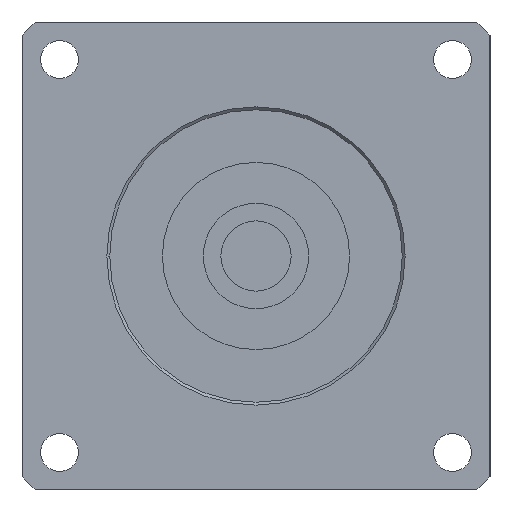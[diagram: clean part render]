
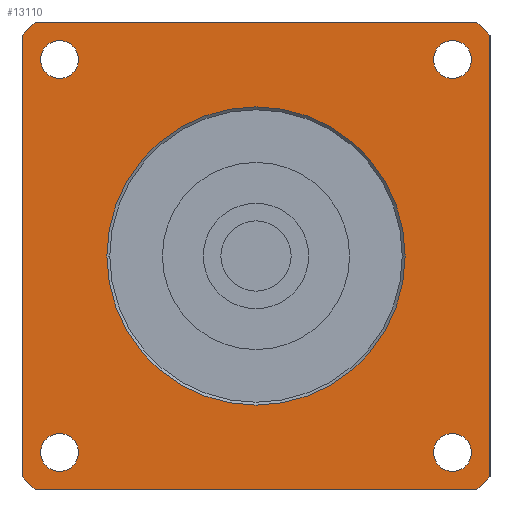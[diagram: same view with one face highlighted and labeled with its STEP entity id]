
A CAD part, left-side view. The second image highlights one B-rep face of the part: STEP entity #13110.
In plain terms, the highlighted planar face has unit normal (-1, 0, 0) as drawn and (0, 0, -1) by its records, which use the part's own axes.
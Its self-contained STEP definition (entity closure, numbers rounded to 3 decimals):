
#8680=CARTESIAN_POINT('',(-36.838,33.588,-37.));
#8690=VERTEX_POINT('',#8680);
#8870=CARTESIAN_POINT('',(-30.338,33.588,-37.));
#8880=VERTEX_POINT('',#8870);
#8910=CARTESIAN_POINT('',(-33.588,33.588,-37.));
#8920=DIRECTION('',(0.,0.,-1.));
#8930=DIRECTION('',(1.,0.,0.));
#8940=AXIS2_PLACEMENT_3D('',#8910,#8920,#8930);
#8950=CIRCLE('',#8940,3.25);
#8960=EDGE_CURVE('',#8690,#8880,#8950,.T.);
#9100=CARTESIAN_POINT('',(30.338,33.588,-37.));
#9110=VERTEX_POINT('',#9100);
#9290=CARTESIAN_POINT('',(36.838,33.588,-37.));
#9300=VERTEX_POINT('',#9290);
#9330=CARTESIAN_POINT('',(33.588,33.588,-37.));
#9340=DIRECTION('',(0.,0.,-1.));
#9350=DIRECTION('',(1.,0.,0.));
#9360=AXIS2_PLACEMENT_3D('',#9330,#9340,#9350);
#9370=CIRCLE('',#9360,3.25);
#9380=EDGE_CURVE('',#9110,#9300,#9370,.T.);
#11680=CARTESIAN_POINT('',(25.5,0.,-37.));
#11690=VERTEX_POINT('',#11680);
#11720=CARTESIAN_POINT('',(0.,0.,
-37.));
#11730=DIRECTION('',(0.,0.,1.));
#11740=DIRECTION('',(-1.,0.,0.));
#11750=AXIS2_PLACEMENT_3D('',#11720,#11730,#11740);
#11760=CIRCLE('',#11750,25.5);
#11770=CARTESIAN_POINT('',(-25.5,0.,-37.));
#11780=VERTEX_POINT('',#11770);
#11790=EDGE_CURVE('',#11690,#11780,#11760,.T.);
#11910=CARTESIAN_POINT('',(40.,40.,-37.));
#11920=DIRECTION('',(0.,0.,1.));
#11930=DIRECTION('',(-1.,0.,0.));
#11940=AXIS2_PLACEMENT_3D('',#11910,#11920,#11930);
#11950=PLANE('',#11940);
#11960=EDGE_CURVE('',#11780,#11690,#11760,.T.);
#11970=ORIENTED_EDGE('',*,*,#11960,.T.);
#11980=ORIENTED_EDGE('',*,*,#11790,.T.);
#11990=EDGE_LOOP('',(#11980,#11970));
#12000=FACE_BOUND('',#11990,.T.);
#12010=CARTESIAN_POINT('',(-33.588,-33.588,-37.));
#12020=DIRECTION('',(0.,0.,-1.));
#12030=DIRECTION('',(1.,0.,0.));
#12040=AXIS2_PLACEMENT_3D('',#12010,#12020,#12030);
#12050=CIRCLE('',#12040,3.25);
#12060=CARTESIAN_POINT('',(-30.338,-33.588,-37.));
#12070=VERTEX_POINT('',#12060);
#12080=CARTESIAN_POINT('',(-36.838,-33.588,-37.));
#12090=VERTEX_POINT('',#12080);
#12100=EDGE_CURVE('',#12070,#12090,#12050,.T.);
#12110=ORIENTED_EDGE('',*,*,#12100,.F.);
#12120=EDGE_CURVE('',#12090,#12070,#12050,.T.);
#12130=ORIENTED_EDGE('',*,*,#12120,.F.);
#12140=EDGE_LOOP('',(#12130,#12110));
#12150=FACE_BOUND('',#12140,.T.);
#12160=CARTESIAN_POINT('',(33.588,-33.588,-37.));
#12170=DIRECTION('',(0.,0.,-1.));
#12180=DIRECTION('',(1.,0.,0.));
#12190=AXIS2_PLACEMENT_3D('',#12160,#12170,#12180);
#12200=CIRCLE('',#12190,3.25);
#12210=CARTESIAN_POINT('',(36.838,-33.588,-37.));
#12220=VERTEX_POINT('',#12210);
#12230=CARTESIAN_POINT('',(30.338,-33.588,-37.));
#12240=VERTEX_POINT('',#12230);
#12250=EDGE_CURVE('',#12220,#12240,#12200,.T.);
#12260=ORIENTED_EDGE('',*,*,#12250,.F.);
#12270=EDGE_CURVE('',#12240,#12220,#12200,.T.);
#12280=ORIENTED_EDGE('',*,*,#12270,.F.);
#12290=EDGE_LOOP('',(#12280,#12260));
#12300=FACE_BOUND('',#12290,.T.);
#12310=EDGE_CURVE('',#9300,#9110,#9370,.T.);
#12320=ORIENTED_EDGE('',*,*,#12310,.F.);
#12330=ORIENTED_EDGE('',*,*,#9380,.F.);
#12340=EDGE_LOOP('',(#12330,#12320));
#12350=FACE_BOUND('',#12340,.T.);
#12360=EDGE_CURVE('',#8880,#8690,#8950,.T.);
#12370=ORIENTED_EDGE('',*,*,#12360,.F.);
#12380=ORIENTED_EDGE('',*,*,#8960,.F.);
#12390=EDGE_LOOP('',(#12380,#12370));
#12400=FACE_BOUND('',#12390,.T.);
#12410=CARTESIAN_POINT('',(0.,0.,
-37.));
#12420=DIRECTION('',(0.,0.,1.));
#12430=DIRECTION('',(1.,0.,0.));
#12440=AXIS2_PLACEMENT_3D('',#12410,#12420,#12430);
#12450=CIRCLE('',#12440,55.);
#12460=CARTESIAN_POINT('',(-40.,-37.749,-37.));
#12470=VERTEX_POINT('',#12460);
#12480=CARTESIAN_POINT('',(-37.749,-40.,-37.));
#12490=VERTEX_POINT('',#12480);
#12500=EDGE_CURVE('',#12470,#12490,#12450,.T.);
#12510=ORIENTED_EDGE('',*,*,#12500,.F.);
#12520=CARTESIAN_POINT('',(-40.,-40.,-37.));
#12530=DIRECTION('',(1.,0.,0.));
#12540=VECTOR('',#12530,1000.);
#12550=LINE('',#12520,#12540);
#12560=CARTESIAN_POINT('',(37.749,-40.,-37.));
#12570=VERTEX_POINT('',#12560);
#12580=EDGE_CURVE('',#12490,#12570,#12550,.T.);
#12590=ORIENTED_EDGE('',*,*,#12580,.F.);
#12600=CARTESIAN_POINT('',(0.,0.,
-37.));
#12610=DIRECTION('',(0.,0.,1.));
#12620=DIRECTION('',(1.,0.,0.));
#12630=AXIS2_PLACEMENT_3D('',#12600,#12610,#12620);
#12640=CIRCLE('',#12630,55.);
#12650=CARTESIAN_POINT('',(40.,-37.749,-37.));
#12660=VERTEX_POINT('',#12650);
#12670=EDGE_CURVE('',#12570,#12660,#12640,.T.);
#12680=ORIENTED_EDGE('',*,*,#12670,.F.);
#12690=CARTESIAN_POINT('',(40.,-40.,-37.));
#12700=DIRECTION('',(0.,1.,0.));
#12710=VECTOR('',#12700,1000.);
#12720=LINE('',#12690,#12710);
#12730=CARTESIAN_POINT('',(40.,37.749,-37.));
#12740=VERTEX_POINT('',#12730);
#12750=EDGE_CURVE('',#12660,#12740,#12720,.T.);
#12760=ORIENTED_EDGE('',*,*,#12750,.F.);
#12770=CARTESIAN_POINT('',(0.,0.,
-37.));
#12780=DIRECTION('',(0.,0.,1.));
#12790=DIRECTION('',(1.,0.,0.));
#12800=AXIS2_PLACEMENT_3D('',#12770,#12780,#12790);
#12810=CIRCLE('',#12800,55.);
#12820=CARTESIAN_POINT('',(37.749,40.,-37.));
#12830=VERTEX_POINT('',#12820);
#12840=EDGE_CURVE('',#12740,#12830,#12810,.T.);
#12850=ORIENTED_EDGE('',*,*,#12840,.F.);
#12860=CARTESIAN_POINT('',(40.,40.,-37.));
#12870=DIRECTION('',(-1.,0.,0.));
#12880=VECTOR('',#12870,1000.);
#12890=LINE('',#12860,#12880);
#12900=CARTESIAN_POINT('',(-37.749,40.,-37.));
#12910=VERTEX_POINT('',#12900);
#12920=EDGE_CURVE('',#12830,#12910,#12890,.T.);
#12930=ORIENTED_EDGE('',*,*,#12920,.F.);
#12940=CARTESIAN_POINT('',(0.,0.,
-37.));
#12950=DIRECTION('',(0.,0.,1.));
#12960=DIRECTION('',(1.,0.,0.));
#12970=AXIS2_PLACEMENT_3D('',#12940,#12950,#12960);
#12980=CIRCLE('',#12970,55.);
#12990=CARTESIAN_POINT('',(-40.,37.749,-37.));
#13000=VERTEX_POINT('',#12990);
#13010=EDGE_CURVE('',#12910,#13000,#12980,.T.);
#13020=ORIENTED_EDGE('',*,*,#13010,.F.);
#13030=CARTESIAN_POINT('',(-40.,40.,-37.));
#13040=DIRECTION('',(0.,-1.,0.));
#13050=VECTOR('',#13040,1000.);
#13060=LINE('',#13030,#13050);
#13070=EDGE_CURVE('',#13000,#12470,#13060,.T.);
#13080=ORIENTED_EDGE('',*,*,#13070,.F.);
#13090=EDGE_LOOP('',(#13080,#13020,#12930,#12850,#12760,#12680,#12590,
#12510));
#13100=FACE_OUTER_BOUND('',#13090,.T.);
#13110=ADVANCED_FACE('',(#12000,#12150,#12300,#12350,#12400,#13100),
#11950,.F.);
